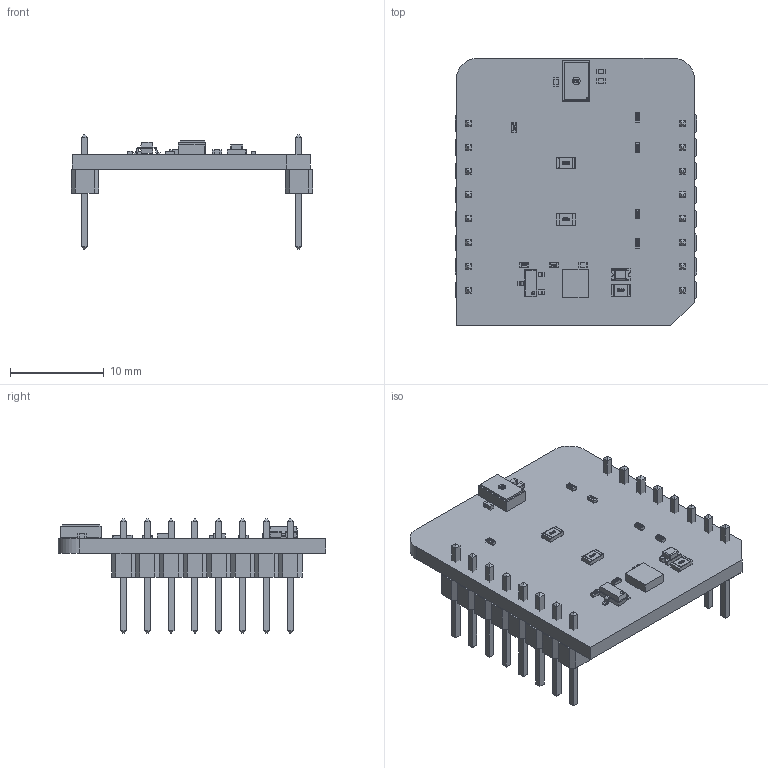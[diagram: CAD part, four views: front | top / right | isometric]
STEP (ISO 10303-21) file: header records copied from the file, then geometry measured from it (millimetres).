
FILE_DESCRIPTION(('Open CASCADE Model'),'2;1');
FILE_NAME('Open CASCADE Shape Model','2026-06-11T11:15:44',('Author'),( 'Open CASCADE'),'Open CASCADE STEP processor 6.8','Open CASCADE 6.8' ,'Unknown');
FILE_SCHEMA(('AUTOMOTIVE_DESIGN { 1 0 10303 214 1 1 1 1 }'));
Length unit declared in the file: millimetre
Products named in the file (35): PCB; Board; JP2; User_Library-R_0805; U2; MAXIM_90-100106; R8; User_Library-R_0402; R7; R6; R5; R3; C4; User_Library-SMD_CAPACITOR0402; C3; C2; JP1; MBD1; Header_1x8; Free-Models; 1240637040; User_Library-PinHeaderX5-1_PinHeaderX5_Body_1; User_Library-PinHeaderX5-1_PinHeaderX5_Pins_1; U1; 1347141304; Extruded; Q1; SOT23-3; R4; C1; R2; LD1; led_0805_green; R1
Assembly tree (47 placements, depth 7):
  PCB
    Board
    JP2
      User_Library-R_0805
    U2
      MAXIM_90-100106
    R8
      User_Library-R_0402
    R7
      User_Library-R_0402
    R6
      User_Library-R_0402
    R5
      User_Library-R_0402
    R3
      User_Library-R_0402
    C4
      User_Library-SMD_CAPACITOR0402
    C3
      User_Library-SMD_CAPACITOR0402
    C2
      User_Library-SMD_CAPACITOR0402
    JP1
      User_Library-R_0805
    MBD1
      Header_1x8  x2
        PCB
          Free-Models
            1240637040  x2
              User_Library-PinHeaderX5-1_PinHeaderX5_Body_1
              User_Library-PinHeaderX5-1_PinHeaderX5_Pins_1
    U1
      1347141304
        Extruded
    Q1
      SOT23-3
    R4
      User_Library-R_0402
    C1
      User_Library-SMD_CAPACITOR0402
    R2
      User_Library-R_0402
    LD1
      led_0805_green
    R1
      User_Library-R_0805
Bounding box: 25.78 x 28.57 x 12.19 mm (x, y, z)
Volume: 1631.1 mm3; surface area: 3106.3 mm2
Topology: 56 solids, 57 shells, 1751 faces, 4374 edges, 2804 vertices
Faces by surface type: plane 1312, bspline 308, cylinder 93, sphere 38
Entity records: 23802 total; most frequent: CARTESIAN_POINT 7347, ORIENTED_EDGE 2760, DIRECTION 2387, EDGE_CURVE 1380, LINE 1123, VECTOR 1123, VERTEX_POINT 896, AXIS2_PLACEMENT_3D 632
